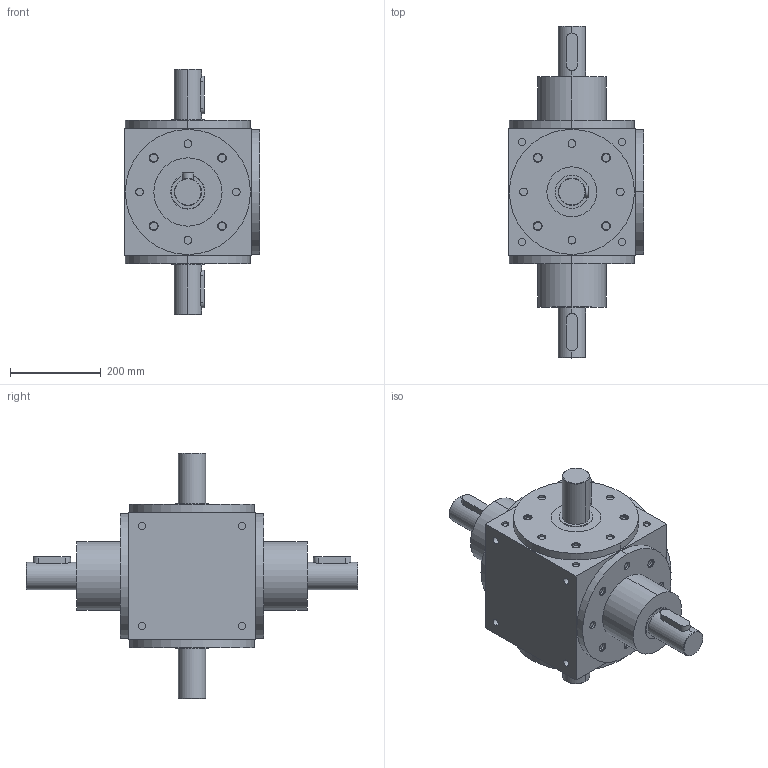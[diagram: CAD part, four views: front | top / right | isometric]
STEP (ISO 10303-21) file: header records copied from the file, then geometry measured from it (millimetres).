
FILE_DESCRIPTION (( 'STEP AP203' ), '1' );
FILE_NAME ('HD-28-1-J.step', '2018-04-27T07:29:33', ( 'Windows 蚚誧' ), ( '' ), 'SwSTEP 2.0', 'SolidWorks 2016', '' );
FILE_SCHEMA (( 'CONFIG_CONTROL_DESIGN' ));
Length unit declared in the file: millimetre
Products named in the file (1): HD-28-1-J
Bounding box: 298 x 730 x 540 mm (x, y, z)
Volume: 31924924.4 mm3; surface area: 1241366.6 mm2
Topology: 7 solids, 7 shells, 283 faces, 570 edges, 380 vertices
Faces by surface type: cylinder 168, plane 107, cone 8
Entity records: 7997 total; most frequent: CARTESIAN_POINT 1648, DIRECTION 1466, ORIENTED_EDGE 1140, AXIS2_PLACEMENT_3D 626, EDGE_CURVE 570, VERTEX_POINT 380, EDGE_LOOP 362, CIRCLE 342
